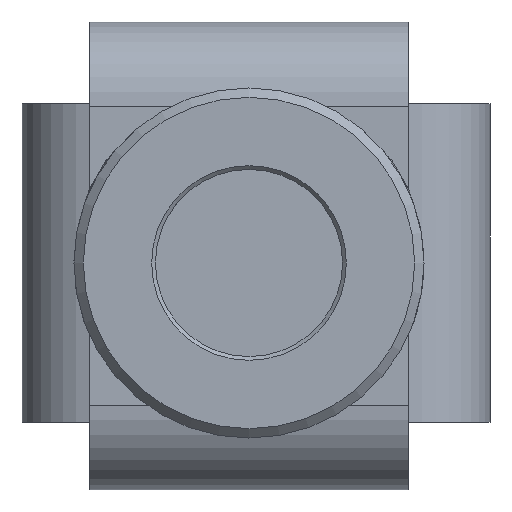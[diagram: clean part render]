
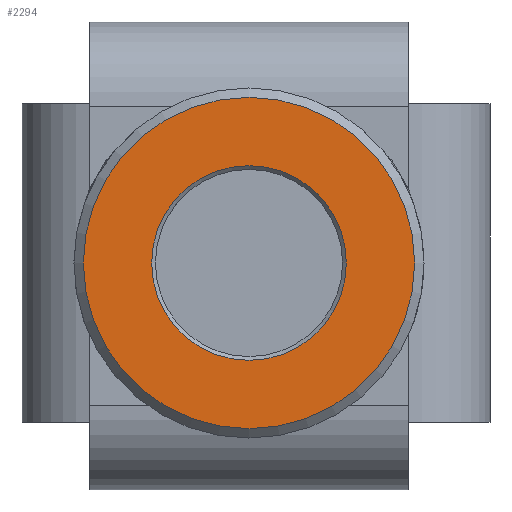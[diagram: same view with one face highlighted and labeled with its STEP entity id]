
A CAD part, front view. The second image highlights one B-rep face of the part: STEP entity #2294.
In plain terms, the highlighted planar face has unit normal (0, -1, 0).
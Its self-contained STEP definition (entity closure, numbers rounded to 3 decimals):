
#389=PLANE('',#2486);
#467=FACE_BOUND('',#734,.T.);
#561=FACE_OUTER_BOUND('',#733,.T.);
#733=EDGE_LOOP('',(#1620));
#734=EDGE_LOOP('',(#1621));
#920=CIRCLE('',#2483,5.2);
#922=CIRCLE('',#2487,8.85);
#1055=VERTEX_POINT('',#3614);
#1057=VERTEX_POINT('',#3620);
#1271=EDGE_CURVE('',#1055,#1055,#920,.T.);
#1273=EDGE_CURVE('',#1057,#1057,#922,.T.);
#1620=ORIENTED_EDGE('',*,*,#1273,.F.);
#1621=ORIENTED_EDGE('',*,*,#1271,.F.);
#2294=ADVANCED_FACE('',(#561,#467),#389,.F.);
#2483=AXIS2_PLACEMENT_3D('',#3615,#2871,#2872);
#2486=AXIS2_PLACEMENT_3D('',#3619,#2877,#2878);
#2487=AXIS2_PLACEMENT_3D('',#3621,#2879,#2880);
#2871=DIRECTION('center_axis',(0.,-1.,0.));
#2872=DIRECTION('ref_axis',(-0.5,0.,-0.866));
#2877=DIRECTION('center_axis',(0.,1.,0.));
#2878=DIRECTION('ref_axis',(-0.5,0.,-0.866));
#2879=DIRECTION('center_axis',(0.,1.,0.));
#2880=DIRECTION('ref_axis',(-0.5,0.,-0.866));
#3614=CARTESIAN_POINT('',(-44.301,0.046,13.003));
#3615=CARTESIAN_POINT('Origin',(-46.901,0.046,8.5));
#3619=CARTESIAN_POINT('Origin',(-46.901,0.046,8.5));
#3620=CARTESIAN_POINT('',(-42.476,0.046,16.164));
#3621=CARTESIAN_POINT('Origin',(-46.901,0.046,8.5));
